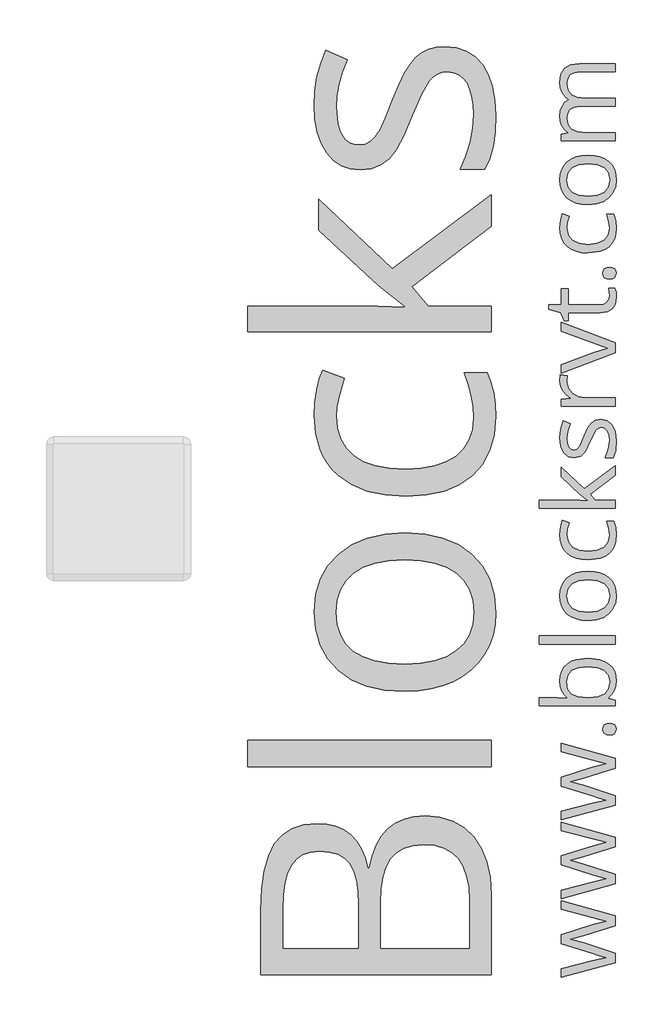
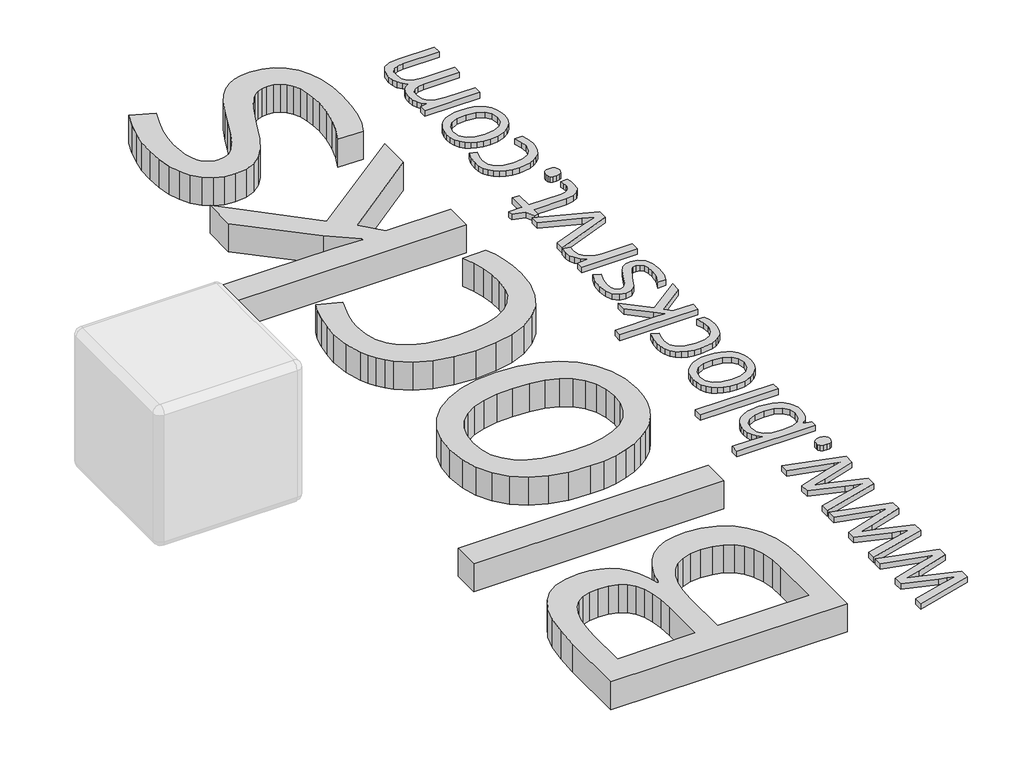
# One storey, part 8 of 8: 2 proxies.
"""IFC4 building model written with IfcOpenShell, lengths in millimetres."""

from ifc_helpers import new_model, si_unit, origin, origin_with_axes, place, context, project, spatial, polyline, outline, extrude, element, save

model = new_model("IFC4")

# Units and contexts
model_context = context("Model", 3, world=origin())
ifc_project = project(units=[si_unit("LENGTHUNIT", "METRE", prefix="MILLI")], contexts=[model_context])

# Site, building, storey
site = spatial("IfcSite", under=ifc_project)
building = spatial("IfcBuilding", under=site)
storey = spatial("IfcBuildingStorey", under=building, Name="PORTOBELLO - SHOWROOM", Elevation=0.0)

# Proxies
placement = place(None, origin())
element("IfcBuildingElementProxy", 1, Name="25mm OpenSans", ObjectType="25mm OpenSans", at=placement, inside=storey, context=model_context, shape_type="SweptSolid", body=[
    extrude(outline(polyline([(28865.7999568, 2905.2385402), (28755.9883135, 2870.7584338), (28710.2646941, 2858.540483), (28756.3630973, 2845.1232242), (28865.7999568, 2809.5937232), (28865.7999568, 2776.6877086), (28678.707901, 2725.3423327), (28678.707901, 2755.1751204), (28786.0459715, 2782.9091191), (28835.7422988, 2793.852805), (28810.5568298, 2801.2735236), (28786.0459715, 2808.6192854), (28678.707901, 2843.0993919), (28678.707901, 2873.9815741), (28786.1209282, 2907.6371563), (28835.4424718, 2920.6796313), (28816.4784133, 2925.7766906), (28678.707901, 2961.5310618), (28678.707901, 2991.0640225), (28865.7999568, 2939.0440359), (28865.7999568, 2905.2385402)])), origin_with_axes(), (0.0, 0.0, 1.0), 20.0),
    extrude(outline(polyline([(28865.7999568, 3178.6807756), (28755.9883135, 3144.2006692), (28710.2646941, 3131.9827184), (28756.3630973, 3118.5654596), (28865.7999568, 3083.0359586), (28865.7999568, 3050.129944), (28678.707901, 2998.7845681), (28678.707901, 3028.6173559), (28786.0459715, 3056.3513545), (28835.7422988, 3067.2950405), (28810.5568298, 3074.715759), (28786.0459715, 3082.0615208), (28678.707901, 3116.5416273), (28678.707901, 3147.4238096), (28786.1209282, 3181.0793917), (28835.4424718, 3194.1218668), (28816.4784133, 3199.218926), (28678.707901, 3234.9732972), (28678.707901, 3264.506258), (28865.7999568, 3212.4862713), (28865.7999568, 3178.6807756)])), origin_with_axes(), (0.0, 0.0, 1.0), 20.0),
    extrude(outline(polyline([(28865.7999568, 3452.123011), (28755.9883135, 3417.6429046), (28710.2646941, 3405.4249538), (28756.3630973, 3392.007695), (28865.7999568, 3356.4781941), (28865.7999568, 3323.5721794), (28678.707901, 3272.2268035), (28678.707901, 3302.0595913), (28786.0459715, 3329.7935899), (28835.7422988, 3340.7372759), (28810.5568298, 3348.1579945), (28786.0459715, 3355.5037563), (28678.707901, 3389.9838627), (28678.707901, 3420.866045), (28786.1209282, 3454.5216271), (28835.4424718, 3467.5641022), (28816.4784133, 3472.6611614), (28678.707901, 3508.4155326), (28678.707901, 3537.9484934), (28865.7999568, 3485.9285067), (28865.7999568, 3452.123011)])), origin_with_axes(), (0.0, 0.0, 1.0), 20.0),
    extrude(outline(polyline([(28846.6859848, 3567.1066703), (28836.2763657, 3568.4090439), (28828.7338424, 3572.3161647), (28824.1521109, 3578.6593799), (28822.624867, 3587.2700369), (28824.1521109, 3596.133673), (28828.7338424, 3602.7860848), (28836.2763657, 3606.9461846), (28846.6859848, 3608.3328846), (28856.8894728, 3606.9180759), (28864.4132569, 3602.6736497), (28869.051206, 3595.9931291), (28870.597189, 3587.2700369), (28865.0129109, 3572.840862), (28857.6390403, 3568.5402183), (28846.6859848, 3567.1066703)])), origin_with_axes(), (0.0, 0.0, 1.0), 20.0),
    extrude(outline(polyline([(28673.9106688, 3755.472991), (28675.510527, 3773.0573768), (28680.3101016, 3788.5570279), (28688.3093926, 3801.9719443), (28699.5084, 3813.302126), (28713.6307208, 3822.3039636), (28730.3999519, 3828.7338476), (28771.8791451, 3833.8777547), (28813.4988823, 3828.6869996), (28830.3875758, 3822.1985556), (28844.6621524, 3813.1147341), (28856.0087309, 3801.7306772), (28864.1134299, 3788.3415272), (28868.9762492, 3772.947284), (28870.597189, 3755.5479477), (28868.8825533, 3737.905002), (28863.7386461, 3721.8548872), (28855.0342932, 3707.8473439), (28842.6383201, 3696.3321127), (28842.6383201, 3694.2333237), (28865.7999568, 3688.2367834), (28865.7999568, 3667.9235033), (28601.9521858, 3667.9235033), (28601.9521858, 3696.257156), (28664.5410747, 3696.257156), (28702.3192782, 3694.9079344), (28689.8905116, 3707.4631906), (28681.0128212, 3721.0678413), (28675.6862069, 3737.0711081), (28673.9106688, 3755.472991)]), holes=[polyline([(28697.8968298, 3751.5002831), (28702.1318864, 3726.2304877), (28714.837056, 3709.1871959), (28737.5676914, 3699.489666), (28771.8791451, 3696.257156), (28806.3311428, 3699.5833619), (28829.3334964, 3709.5619797), (28842.2916451, 3726.8676201), (28846.611028, 3752.1748938), (28841.7669479, 3775.2522042), (28827.2347073, 3791.5646676), (28803.6326997, 3801.2621975), (28771.5793181, 3804.4947075), (28739.1324136, 3801.2621975), (28716.1487992, 3791.5646676), (28702.4598222, 3775.0835515), (28697.8968298, 3751.5002831)])]), origin_with_axes(), (0.0, 0.0, 1.0), 20.0),
    extrude(outline(polyline([(28865.7999568, 3911.1581672), (28865.7999568, 3882.8245145), (28601.9521858, 3882.8245145), (28601.9521858, 3911.1581672), (28865.7999568, 3911.1581672)])), origin_with_axes(), (0.0, 0.0, 1.0), 20.0),
    extrude(outline(polyline([(28772.1040154, 4136.1033834), (28794.0312081, 4134.6628083), (28813.414556, 4130.341083), (28830.254059, 4123.1382075), (28844.5497173, 4113.0541818), (28855.9454862, 4100.4356809), (28864.0853211, 4085.6293797), (28868.969222, 4068.6352784), (28870.597189, 4049.4533767), (28867.6082885, 4025.7576732), (28858.6415869, 4004.891587), (28844.0906072, 3987.6609034), (28824.3488723, 3974.8714074), (28800.1191019, 3966.9447307), (28772.1040154, 3964.3025052), (28750.1861923, 3965.7313683), (28730.8309532, 3970.0179576), (28714.0382981, 3977.1622731), (28699.808227, 3987.1643149), (28688.4780453, 3999.7055167), (28680.3850584, 4014.4673122), (28675.5292662, 4031.4497016), (28673.9106688, 4050.6526848), (28675.5667446, 4069.2489868), (28680.5349719, 4085.8355108), (28688.8153507, 4100.4122569), (28700.407881, 4112.979225), (28714.825344, 4123.0960443), (28731.5805207, 4130.3223438), (28750.6734112, 4134.6581235), (28772.1040154, 4136.1033834)]), holes=[polyline([(28771.8791451, 3993.7605092), (28804.0355922, 3997.3396941), (28827.497056, 4008.077249), (28841.832535, 4025.7483036), (28846.611028, 4050.1279875), (28841.8512742, 4074.5264107), (28827.5720127, 4092.2536828), (28804.1292882, 4103.0474552), (28771.8791451, 4106.6453794), (28739.9569379, 4103.0474552), (28716.7484532, 4092.2536828), (28702.6097357, 4074.4327147), (28697.8968298, 4049.7532038), (28702.5441485, 4025.4203678), (28716.4861046, 4007.8898571), (28739.6290021, 3997.2928462), (28771.8791451, 3993.7605092)])]), origin_with_axes(), (0.0, 0.0, 1.0), 20.0),
    extrude(outline(polyline([(28870.597189, 4261.5060314), (28869.0113852, 4242.1625043), (28864.2539738, 4225.1332669), (28856.3249547, 4210.4183193), (28845.2243281, 4198.0176615), (28831.223812, 4188.1795876), (28814.5951248, 4181.152392), (28773.453237, 4175.5306355), (28751.0060318, 4176.9571562), (28731.2619545, 4181.2367183), (28714.2210052, 4188.3693219), (28699.8831838, 4198.3549668), (28688.5202085, 4210.9781525), (28680.4037975, 4226.0233783), (28675.533951, 4243.4906442), (28673.9106688, 4263.3799502), (28676.6840687, 4290.6267299), (28683.2053062, 4311.9519262), (28706.6667699, 4303.1819861), (28700.407881, 4282.4564439), (28697.8968298, 4262.6303827), (28702.5863117, 4237.41212), (28716.6547573, 4219.3990753), (28740.1021666, 4208.5912484), (28772.9285397, 4204.9886395), (28804.3916368, 4208.5022373), (28827.5720127, 4219.0430307), (28841.8512742, 4236.4798454), (28846.611028, 4260.6815071), (28844.0812376, 4284.6489289), (28836.4918663, 4309.1785263), (28861.1526381, 4309.1785263), (28868.2360513, 4287.7783733), (28870.597189, 4261.5060314)])), origin_with_axes(), (0.0, 0.0, 1.0), 20.0),
    extrude(outline(polyline([(28771.9541019, 4380.7622256), (28744.0701897, 4403.6240353), (28678.707901, 4463.5894378), (28678.707901, 4496.9451929), (28758.4618863, 4421.6886128), (28865.7999568, 4502.1921657), (28865.7999568, 4468.086843), (28779.4497772, 4402.499684), (28797.439398, 4381.5117931), (28865.7999568, 4381.5117931), (28865.7999568, 4353.4779674), (28601.9521858, 4353.4779674), (28601.9521858, 4381.5117931), (28742.9458384, 4381.5117931), (28771.9541019, 4380.7622256)])), origin_with_axes(), (0.0, 0.0, 1.0), 20.0),
    extrude(outline(polyline([(28815.354062, 4662.4497039), (28838.8436345, 4657.5494061), (28856.2429708, 4642.8485129), (28867.0086345, 4619.3027228), (28870.597189, 4587.8677345), (28867.6363973, 4554.5681969), (28858.754022, 4529.4764238), (28832.2193314, 4529.4764238), (28842.7507552, 4558.6346008), (28846.611028, 4588.617302), (28844.8308051, 4608.4339936), (28839.4901365, 4623.0599301), (28830.4953261, 4632.0828492), (28817.7526781, 4635.090489), (28807.4648637, 4632.7012425), (28798.7886195, 4625.5335029), (28780.1993447, 4588.317475), (28762.9592915, 4550.9140552), (28746.281414, 4534.3860911), (28723.9068231, 4528.9517265), (28703.1812809, 4533.6365236), (28687.3279276, 4547.6909148), (28677.2649835, 4569.9155921), (28673.9106688, 4599.1112475), (28677.0213741, 4629.1501663), (28686.3534898, 4658.5519527), (28709.5151265, 4648.3578343), (28700.801404, 4621.2984464), (28697.8968298, 4596.9375016), (28699.4990304, 4579.1165336), (28704.3056322, 4566.2801896), (28711.9418514, 4558.5221656), (28722.0329043, 4555.9361577), (28735.037901, 4559.7964304), (28745.2320194, 4572.2767298), (28759.2864106, 4605.332658), (28771.6167965, 4633.4133316), (28784.0221392, 4650.6440152), (28798.0765304, 4659.4982817), (28815.354062, 4662.4497039)])), origin_with_axes(), (0.0, 0.0, 1.0), 20.0),
    extrude(outline(polyline([(28673.9106688, 4794.8982866), (28675.7845876, 4817.5352261), (28700.4453594, 4813.5625182), (28697.8968298, 4792.8744543), (28702.5909965, 4771.5398884), (28716.6734965, 4753.5596373), (28737.7644529, 4741.3323169), (28763.4839888, 4737.2565435), (28865.7999568, 4737.2565435), (28865.7999568, 4708.9228908), (28678.707901, 4708.9228908), (28678.707901, 4732.3093978), (28712.2885264, 4735.5325382), (28695.9666934, 4748.5187956), (28683.879917, 4762.292099), (28676.4029808, 4777.8643645), (28673.9106688, 4794.8982866)])), origin_with_axes(), (0.0, 0.0, 1.0), 20.0),
    extrude(outline(polyline([(28865.7999568, 4894.5158115), (28678.707901, 4822.5573285), (28678.707901, 4853.3645541), (28789.6438956, 4894.2159845), (28840.1647473, 4910.4066432), (28802.6863707, 4923.823902), (28678.707901, 4969.2476944), (28678.707901, 5000.05492), (28865.7999568, 4928.096437), (28865.7999568, 4894.5158115)])), origin_with_axes(), (0.0, 0.0, 1.0), 20.0),
    extrude(outline(polyline([(28846.611028, 5091.427202), (28845.4866767, 5106.1187256), (28843.1630174, 5117.3622386), (28865.3502163, 5117.3622386), (28869.098054, 5103.6451528), (28870.597189, 5087.3795374), (28867.0367432, 5063.3746372), (28856.3554059, 5046.2282799), (28838.5531771, 5035.9404655), (28813.6300566, 5032.5111941), (28702.694062, 5032.5111941), (28702.694062, 5005.3768494), (28688.6771492, 5005.3768494), (28676.5341552, 5032.3612806), (28635.5328112, 5044.4293178), (28635.5328112, 5060.9198035), (28678.707901, 5060.9198035), (28678.707901, 5116.0130171), (28702.694062, 5116.0130171), (28702.694062, 5060.9198035), (28811.9060513, 5060.9198035), (28826.7381188, 5062.9530054), (28837.653696, 5069.0526112), (28844.371695, 5078.7126628), (28846.611028, 5091.427202)])), origin_with_axes(), (0.0, 0.0, 1.0), 20.0),
    extrude(outline(polyline([(28846.6859848, 5150.1932965), (28836.2763657, 5151.4956701), (28828.7338424, 5155.4027908), (28824.1521109, 5161.7460061), (28822.624867, 5170.3566631), (28824.1521109, 5179.2202991), (28828.7338424, 5185.872711), (28836.2763657, 5190.0328108), (28846.6859848, 5191.4195107), (28856.8894728, 5190.004702), (28864.4132569, 5185.7602758), (28869.051206, 5179.0797552), (28870.597189, 5170.3566631), (28865.0129109, 5155.9274881), (28857.6390403, 5151.6268444), (28846.6859848, 5150.1932965)])), origin_with_axes(), (0.0, 0.0, 1.0), 20.0),
    extrude(outline(polyline([(28870.597189, 5326.4915798), (28869.0113852, 5307.1480527), (28864.2539738, 5290.1188154), (28856.3249547, 5275.4038678), (28845.2243281, 5263.0032099), (28831.223812, 5253.1651361), (28814.5951248, 5246.1379405), (28773.453237, 5240.516184), (28751.0060318, 5241.9427047), (28731.2619545, 5246.2222668), (28714.2210052, 5253.3548704), (28699.8831838, 5263.3405153), (28688.5202085, 5275.963701), (28680.4037975, 5291.0089268), (28675.533951, 5308.4761927), (28673.9106688, 5328.3654987), (28676.6840687, 5355.6122784), (28683.2053062, 5376.9374747), (28706.6667699, 5368.1675346), (28700.407881, 5347.4419923), (28697.8968298, 5327.6159311), (28702.5863117, 5302.3976685), (28716.6547573, 5284.3846238), (28740.1021666, 5273.5767969), (28772.9285397, 5269.974188), (28804.3916368, 5273.4877858), (28827.5720127, 5284.0285792), (28841.8512742, 5301.4653939), (28846.611028, 5325.6670556), (28844.0812376, 5349.6344774), (28836.4918663, 5374.1640748), (28861.1526381, 5374.1640748), (28868.2360513, 5352.7639218), (28870.597189, 5326.4915798)])), origin_with_axes(), (0.0, 0.0, 1.0), 20.0),
    extrude(outline(polyline([(28772.1040154, 5580.0702757), (28794.0312081, 5578.6297006), (28813.414556, 5574.3079753), (28830.254059, 5567.1050998), (28844.5497173, 5557.0210741), (28855.9454862, 5544.4025732), (28864.0853211, 5529.596272), (28868.969222, 5512.6021707), (28870.597189, 5493.4202691), (28867.6082885, 5469.7245655), (28858.6415869, 5448.8584793), (28844.0906072, 5431.6277957), (28824.3488723, 5418.8382997), (28800.1191019, 5410.9116231), (28772.1040154, 5408.2693975), (28750.1861923, 5409.6982606), (28730.8309532, 5413.9848499), (28714.0382981, 5421.1291655), (28699.808227, 5431.1312072), (28688.4780453, 5443.672409), (28680.3850584, 5458.4342045), (28675.5292662, 5475.4165939), (28673.9106688, 5494.6195771), (28675.5667446, 5513.2158791), (28680.5349719, 5529.8024031), (28688.8153507, 5544.3791492), (28700.407881, 5556.9461173), (28714.825344, 5567.0629366), (28731.5805207, 5574.2892361), (28750.6734112, 5578.6250158), (28772.1040154, 5580.0702757)]), holes=[polyline([(28771.8791451, 5437.7274015), (28804.0355922, 5441.3065865), (28827.497056, 5452.0441413), (28841.832535, 5469.7151959), (28846.611028, 5494.0948798), (28841.8512742, 5518.493303), (28827.5720127, 5536.2205751), (28804.1292882, 5547.0143476), (28771.8791451, 5550.6122717), (28739.9569379, 5547.0143476), (28716.7484532, 5536.2205751), (28702.6097357, 5518.399607), (28697.8968298, 5493.7200961), (28702.5441485, 5469.3872601), (28716.4861046, 5451.8567495), (28739.6290021, 5441.2597385), (28771.8791451, 5437.7274015)])]), origin_with_axes(), (0.0, 0.0, 1.0), 20.0),
    extrude(outline(polyline([(28865.7999568, 5869.1035158), (28743.0207952, 5869.1035158), (28723.2790603, 5866.7048997), (28709.1778212, 5859.5090514), (28700.7170776, 5847.2536222), (28697.8968298, 5829.6762636), (28701.7289938, 5806.6083228), (28713.2254858, 5790.4738817), (28732.6861329, 5780.9731133), (28760.4107619, 5777.8061904), (28865.7999568, 5777.8061904), (28865.7999568, 5749.397581), (28743.0207952, 5749.397581), (28723.2790603, 5746.9989649), (28709.1778212, 5739.8031166), (28700.7170776, 5727.5102091), (28697.8968298, 5709.8204154), (28701.9257553, 5686.6400395), (28714.0125317, 5670.6180335), (28735.2627712, 5661.2859177), (28766.7820859, 5658.1752124), (28865.7999568, 5658.1752124), (28865.7999568, 5629.8415598), (28678.707901, 5629.8415598), (28678.707901, 5652.9282397), (28702.694062, 5657.5006017), (28690.6166552, 5668.5848315), (28681.5187792, 5681.5991978), (28675.8126964, 5697.1246153), (28673.9106688, 5714.3927773), (28675.8782836, 5734.4905567), (28681.7811279, 5750.7842809), (28691.6192017, 5763.2739499), (28705.3925051, 5771.9595637), (28692.3687693, 5783.58723), (28682.3807819, 5797.6322516), (28676.0281971, 5814.6755434), (28673.9106688, 5833.9487985), (28678.014551, 5861.8046019), (28690.3261977, 5881.6587719), (28711.6701332, 5893.5487869), (28742.8708817, 5897.5121252), (28865.7999568, 5897.5121252), (28865.7999568, 5869.1035158)])), origin_with_axes(), (0.0, 0.0, 1.0), 20.0),
])
element("IfcBuildingElementProxy", 2, Name="80mm OpenSans", ObjectType="80mm OpenSans", at=placement, inside=storey, context=model_context, shape_type="SweptSolid", body=[
    extrude(outline(polyline([(27636.4165498, 2734.3843861), (27636.4165498, 2959.3675067), (27639.353529, 3033.1976046), (27648.1644665, 3096.0459543), (27662.8493624, 3147.9125558), (27683.4082166, 3188.7974091), (27710.3067394, 3219.7671408), (27744.010641, 3241.8883778), (27784.5199215, 3255.16112), (27831.8345809, 3259.5853674), (27865.4934138, 3257.1140985), (27896.042504, 3249.7002917), (27923.4818516, 3237.3439471), (27947.8114566, 3220.0450647), (27968.5956545, 3198.0139652), (27985.3987808, 3171.4609693), (27998.2208357, 3140.3860772), (28007.061819, 3104.7892887), (28012.3498838, 3104.7892887), (28022.2650053, 3147.3229065), (28036.2663587, 3184.1853753), (28054.353944, 3215.376695), (28076.5277612, 3240.8968657), (28102.7878102, 3260.7458873), (28133.1340912, 3274.9237599), (28167.566604, 3283.4304835), (28206.0853488, 3286.266058), (28257.320988, 3281.7516731), (28302.6225772, 3268.2085185), (28341.9901164, 3245.6365942), (28375.4236057, 3214.0359002), (28402.0817619, 3174.3378569), (28421.123302, 3127.4738849), (28432.5482261, 3073.4439841), (28436.3565342, 3012.2481547), (28436.3565342, 2734.3843861), (27636.4165498, 2734.3843861)]), holes=[polyline([(27974.852697, 2827.4062533), (27974.852697, 2979.317933), (27972.9222529, 3024.7997972), (27967.1309206, 3063.4161908), (27957.4787001, 3095.167114), (27943.9655913, 3120.0525667), (27925.8855175, 3138.8236944), (27902.5324017, 3152.2316428), (27873.9062441, 3160.2764118), (27840.0070446, 3162.9580015), (27808.8044577, 3159.9684422), (27782.2589734, 3150.9997641), (27760.3705915, 3136.0519673), (27743.1393122, 3115.1250517), (27730.0994251, 3087.6932156), (27720.78522, 3053.2306569), (27715.196697, 3011.7373757), (27713.333856, 2963.213372), (27713.333856, 2827.4062533), (27974.852697, 2827.4062533)]), polyline([(28051.7700032, 2827.4062533), (28359.439228, 2827.4062533), (28359.439228, 2993.0188282), (28357.0280507, 3038.1251195), (28349.7945189, 3077.2973609), (28337.7386325, 3110.5355523), (28320.8603916, 3137.8396937), (28298.8593379, 3159.1346706), (28271.4350132, 3174.3453683), (28238.5874175, 3183.471787), (28200.3165508, 3186.5139265), (28164.6221134, 3183.4041839), (28133.9753742, 3174.0749559), (28108.3763333, 3158.5262427), (28087.8249905, 3136.7580441), (28072.0509336, 3108.6501769), (28060.78375, 3074.0824579), (28054.0234399, 3033.0548869), (28051.7700032, 2985.5674641), (28051.7700032, 2827.4062533)])]), origin_with_axes(), (0.0, 0.0, 1.0), 100.0),
    extrude(outline(polyline([(28436.3565342, 3548.0252656), (28436.3565342, 3457.1666977), (27590.2661661, 3457.1666977), (27590.2661661, 3548.0252656), (28436.3565342, 3548.0252656)])), origin_with_axes(), (0.0, 0.0, 1.0), 100.0),
    extrude(outline(polyline([(28135.8983069, 4269.3653777), (28206.2130435, 4264.7458324), (28268.3703393, 4250.8871967), (28322.3701942, 4227.7894705), (28368.2126082, 4195.4526538), (28404.7558401, 4154.988442), (28430.8581486, 4107.5085306), (28446.5195337, 4053.0129197), (28451.7399954, 3991.5016091), (28449.343841, 3952.3744364), (28442.1553779, 3915.5157234), (28430.1746061, 3880.92547), (28413.4015256, 3848.6036762), (28392.1516175, 3819.1963272), (28366.7403629, 3793.3494082), (28337.1677619, 3771.0629192), (28303.4338144, 3752.3368602), (28266.1018797, 3737.5092466), (28225.7353168, 3726.9180941), (28182.3341259, 3720.5634026), (28135.8983069, 3718.4451721), (28065.6136161, 3723.0271601), (28003.5464577, 3736.773124), (27949.696832, 3759.6830638), (27904.0647387, 3791.7569796), (27867.7318276, 3831.9733133), (27841.7797482, 3879.310507), (27826.2085005, 3933.7685607), (27821.0180847, 3995.3474744), (27826.3286838, 4054.9809211), (27842.2604813, 4108.1695387), (27868.8134772, 4154.9133274), (27905.9876713, 4195.2122872), (27952.2206811, 4227.6542643), (28005.9501236, 4250.8271051), (28067.1759988, 4264.7308095), (28135.8983069, 4269.3653777)]), holes=[polyline([(28135.1772071, 3812.9092388), (28190.2211544, 3815.7786149), (28238.2944707, 3824.3867431), (28279.3971562, 3838.7336234), (28313.5292108, 3858.8192559), (28340.3451076, 3884.4633656), (28359.4993196, 3915.4856776), (28370.9918468, 3951.8861918), (28374.8226892, 3993.6649083), (28371.0068697, 4035.4586477), (28359.5594113, 4071.9042307), (28340.4803138, 4103.0016572), (28313.7695774, 4128.7509273), (28279.7126374, 4148.9417202), (28238.594929, 4163.3637151), (28190.4164522, 4172.016912), (28135.1772071, 4174.901311), (28080.5013212, 4172.016912), (28032.8110891, 4163.3637151), (27992.1065107, 4148.9417202), (27958.3875862, 4128.7509273), (27931.9397507, 4102.9265427), (27913.0484397, 4071.6037725), (27901.7136531, 4034.7826167), (27897.9353909, 3992.4630754), (27901.6610729, 3950.7219162), (27912.8381189, 3914.4340738), (27931.466529, 3883.5995482), (27957.5463032, 3858.2183395), (27991.0023268, 3838.3956079), (28031.7594853, 3824.236514), (28079.8177787, 3815.7410576), (28135.1772071, 3812.9092388)])]), origin_with_axes(), (0.0, 0.0, 1.0), 100.0),
    extrude(outline(polyline([(28451.7399954, 4671.4986691), (28446.6547399, 4609.4690681), (28431.3989734, 4554.8607852), (28405.9726959, 4507.6738207), (28370.3759074, 4467.9081743), (28325.4799368, 4436.3600604), (28272.1561129, 4413.8256934), (28210.4044358, 4400.3050731), (28140.2249053, 4395.7981997), (28068.2426255, 4400.3726762), (28004.9285656, 4414.0961058), (27950.2827255, 4436.9684883), (27904.3051053, 4468.9898239), (27884.7847098, 4488.2585856), (27867.8670338, 4509.4690586), (27853.5520771, 4532.6212428), (27841.8398398, 4557.7151384), (27826.2235235, 4613.7280634), (27821.0180847, 4677.5078336), (27823.2414756, 4721.2245057), (27829.9116482, 4764.8810861), (27839.5864031, 4803.7904266), (27850.8235408, 4833.2653787), (27926.0582809, 4805.1424886), (27905.9876713, 4738.6811287), (27899.948461, 4704.8194865), (27897.9353909, 4675.1041678), (27901.6948744, 4631.7818472), (27912.9733251, 4594.2358359), (27931.770743, 4562.4661341), (27958.087128, 4536.4727417), (27991.9224801, 4516.2556588), (28033.2767993, 4501.8148852), (28082.1500857, 4493.1504211), (28138.5423393, 4490.2622664), (28192.309339, 4493.0790623), (28239.436212, 4501.5294499), (28279.9229581, 4515.6134293), (28313.7695774, 4535.3310005), (28340.4803138, 4560.577003), (28359.5594113, 4591.2462766), (28371.0068697, 4627.3388211), (28374.8226892, 4668.8546367), (28372.7945962, 4707.0579003), (28366.7103171, 4745.7118512), (28356.5698519, 4784.8164895), (28342.3732007, 4824.3718151), (28421.4538061, 4824.3718151), (28434.7040139, 4792.012464), (28444.1684481, 4755.747156), (28449.8471086, 4715.575891), (28451.7399954, 4671.4986691)])), origin_with_axes(), (0.0, 0.0, 1.0), 100.0),
    extrude(outline(polyline([(28135.4175737, 5056.0852), (28046.0012053, 5127.2337082), (27836.4015459, 5319.5269737), (27836.4015459, 5426.4901026), (28092.151589, 5185.1620545), (28436.3565342, 5443.3157633), (28436.3565342, 5333.9489686), (28159.4542319, 5123.6282095), (28217.1422115, 5056.3255666), (28436.3565342, 5056.3255666), (28436.3565342, 4966.428465), (27590.2661661, 4966.428465), (27590.2661661, 5056.3255666), (28042.3957065, 5056.3255666), (28135.4175737, 5051.7586015), (28135.4175737, 5056.0852)])), origin_with_axes(), (0.0, 0.0, 1.0), 100.0),
    extrude(outline(polyline([(28274.5898246, 5957.2195153), (28314.6934865, 5953.291024), (28349.9147022, 5941.50555), (28380.2534717, 5921.8630934), (28405.709795, 5894.3636541), (28425.8480077, 5859.7734007), (28440.2324453, 5818.8585016), (28448.8631079, 5771.6189568), (28451.7399954, 5718.0547664), (28449.3663754, 5661.3733218), (28442.2455154, 5611.2719124), (28430.3774154, 5567.7505382), (28413.7620755, 5530.8091991), (28328.6723055, 5530.8091991), (28347.8114946, 5575.9380249), (28362.4438102, 5624.3117995), (28371.7279695, 5673.3465821), (28374.8226892, 5720.4584322), (28373.3955126, 5754.3125629), (28369.1139829, 5784.0053473), (28361.9781, 5809.5367851), (28351.9878639, 5830.9068765), (28339.0681602, 5847.7851175), (28323.1438741, 5859.8410038), (28304.2150058, 5867.0745356), (28282.2815552, 5869.4857129), (28265.1404133, 5867.5702917), (28249.2912418, 5861.8240281), (28234.7340407, 5852.2469221), (28221.46881, 5838.8389737), (28193.9468364, 5793.6801022), (28161.8578977, 5719.4969659), (28132.1726249, 5647.3268997), (28106.5735839, 5599.5540415), (28081.4252303, 5568.5167066), (28053.0920194, 5546.5532102), (28020.1918435, 5533.4832773), (27981.3425948, 5529.1266331), (27946.1589363, 5532.8823609), (27914.8812349, 5544.1495444), (27887.5094904, 5562.9281836), (27864.0437028, 5589.2182785), (27845.2199949, 5622.0583628), (27831.7744892, 5660.48697), (27823.7071858, 5704.5041003), (27821.0180847, 5754.1097536), (27823.511888, 5802.528597), (27830.9932978, 5850.4366613), (27843.4623143, 5897.8339467), (27860.9189373, 5944.720453), (27935.192211, 5912.0305979), (27918.8923522, 5867.5627803), (27907.2495959, 5825.2582619), (27900.2639421, 5785.1170427), (27897.9353909, 5747.1391228), (27903.0732265, 5689.9919679), (27909.4955212, 5667.4125322), (27918.4867336, 5648.8291908), (27929.7464057, 5634.3170584), (27942.9740791, 5623.9512496), (27958.169754, 5617.7317643), (27975.3334302, 5615.6586025), (27998.0180264, 5618.7533223), (28017.0370322, 5628.0374815), (28033.8026012, 5644.2321799), (28049.7268873, 5668.0585173), (28068.7458931, 5708.3800115), (28094.7956214, 5774.0601799), (28114.5357269, 5823.4329781), (28134.3359241, 5864.1075107), (28154.1962129, 5896.0837775), (28174.1165934, 5919.3617787), (28195.3589901, 5935.9245384), (28219.1853275, 5947.7550811), (28245.5956057, 5954.8534068), (28274.5898246, 5957.2195153)])), origin_with_axes(), (0.0, 0.0, 1.0), 100.0),
])

save(model, "model.ifc")
